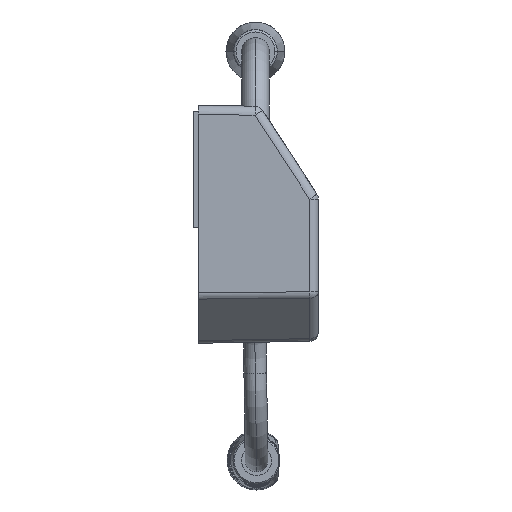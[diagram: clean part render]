
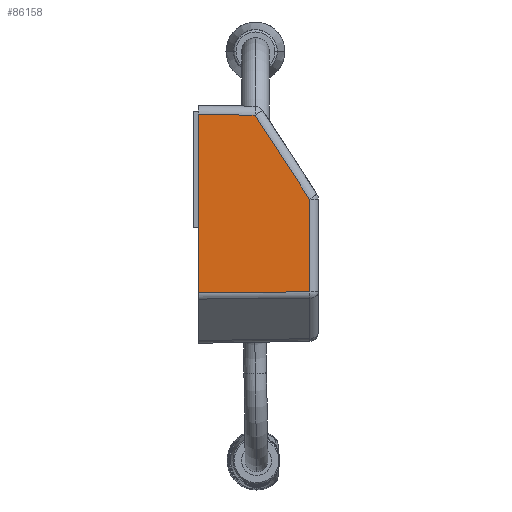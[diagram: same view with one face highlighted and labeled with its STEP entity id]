
A CAD part, left-side view. The second image highlights one B-rep face of the part: STEP entity #86158.
In plain terms, the highlighted planar face has unit normal (-1, -0.018, 0) as drawn and (0, -0.017, -1) by its records, which use the part's own axes.
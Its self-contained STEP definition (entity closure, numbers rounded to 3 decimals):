
#7616 = CARTESIAN_POINT ( 'NONE',  ( -42.11, 14.341, -38.963 ) ) ;
#8040 = EDGE_CURVE ( 'NONE', #36969, #50645, #14705, .T. ) ;
#13225 = DIRECTION ( 'NONE',  ( -1., 0., 0. ) ) ;
#14705 = LINE ( 'NONE', #7616, #52914 ) ;
#18113 = ORIENTED_EDGE ( 'NONE', *, *, #79666, .T. ) ;
#18316 = FACE_OUTER_BOUND ( 'NONE', #37528, .T. ) ;
#20911 = DIRECTION ( 'NONE',  ( -1., 0., 0. ) ) ;
#22442 = ORIENTED_EDGE ( 'NONE', *, *, #89673, .T. ) ;
#23338 = CARTESIAN_POINT ( 'NONE',  ( -21.885, -10.193, -38.534 ) ) ;
#23979 = CARTESIAN_POINT ( 'NONE',  ( -1.487, -12.452, -38.495 ) ) ;
#25035 = ORIENTED_EDGE ( 'NONE', *, *, #93649, .T. ) ;
#36969 = VERTEX_POINT ( 'NONE', #90299 ) ;
#37528 = EDGE_LOOP ( 'NONE', ( #25035, #18113, #64765, #95757, #22442 ) ) ;
#39999 = VECTOR ( 'NONE', #86025, 1000. ) ;
#41503 = VECTOR ( 'NONE', #82092, 1000. ) ;
#42764 = CARTESIAN_POINT ( 'NONE',  ( -35.212, -1.539, -38.685 ) ) ;
#45640 = VERTEX_POINT ( 'NONE', #57579 ) ;
#45690 = AXIS2_PLACEMENT_3D ( 'NONE', #48107, #88479, #80402 ) ;
#46114 = VECTOR ( 'NONE', #20911, 1000. ) ;
#47529 = EDGE_CURVE ( 'NONE', #36969, #45640, #93106, .T. ) ;
#48107 = CARTESIAN_POINT ( 'NONE',  ( -42.11, -12.159, -38.5 ) ) ;
#50299 = LINE ( 'NONE', #42764, #41503 ) ;
#50645 = VERTEX_POINT ( 'NONE', #88965 ) ;
#52914 = VECTOR ( 'NONE', #13225, 1000. ) ;
#57579 = CARTESIAN_POINT ( 'NONE',  ( -1.471, -10.193, -38.534 ) ) ;
#64765 = ORIENTED_EDGE ( 'NONE', *, *, #8040, .F. ) ;
#66950 = DIRECTION ( 'NONE',  ( -0.017, 1., -0.017 ) ) ;
#67419 = VERTEX_POINT ( 'NONE', #23338 ) ;
#73022 = CARTESIAN_POINT ( 'NONE',  ( -40.111, -12.124, -38.501 ) ) ;
#77530 = CARTESIAN_POINT ( 'NONE',  ( -40.354, 1.801, -38.744 ) ) ;
#79666 = EDGE_CURVE ( 'NONE', #96967, #50645, #96228, .T. ) ;
#80402 = DIRECTION ( 'NONE',  ( 0., 1., -0.017 ) ) ;
#81461 = LINE ( 'NONE', #98570, #46114 ) ;
#82092 = DIRECTION ( 'NONE',  ( -0.839, 0.545, -0.01 ) ) ;
#86025 = DIRECTION ( 'NONE',  ( -0.007, -1., 0.017 ) ) ;
#86158 = ADVANCED_FACE ( 'NONE', ( #18316 ), #87955, .T. ) ;
#87955 = PLANE ( 'NONE',  #45690 ) ;
#88479 = DIRECTION ( 'NONE',  ( 0., -0.017, -1. ) ) ;
#88965 = CARTESIAN_POINT ( 'NONE',  ( -40.573, 14.341, -38.963 ) ) ;
#89673 = EDGE_CURVE ( 'NONE', #45640, #67419, #81461, .T. ) ;
#90299 = CARTESIAN_POINT ( 'NONE',  ( -1.293, 14.341, -38.963 ) ) ;
#93106 = LINE ( 'NONE', #23979, #39999 ) ;
#93649 = EDGE_CURVE ( 'NONE', #67419, #96967, #50299, .T. ) ;
#95757 = ORIENTED_EDGE ( 'NONE', *, *, #47529, .T. ) ;
#96228 = LINE ( 'NONE', #73022, #99756 ) ;
#96967 = VERTEX_POINT ( 'NONE', #77530 ) ;
#98570 = CARTESIAN_POINT ( 'NONE',  ( -42.11, -10.193, -38.534 ) ) ;
#99756 = VECTOR ( 'NONE', #66950, 1000. ) ;
